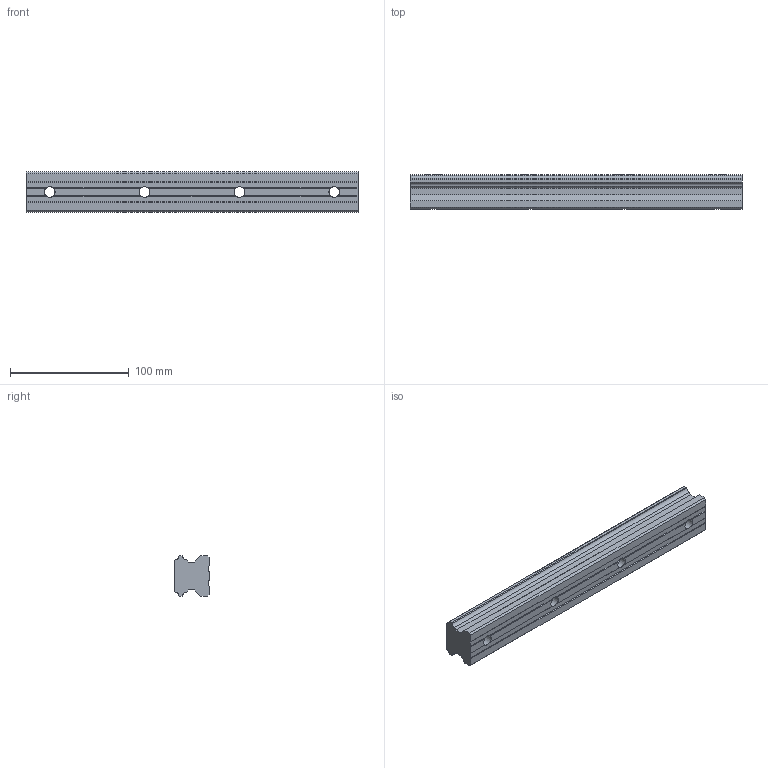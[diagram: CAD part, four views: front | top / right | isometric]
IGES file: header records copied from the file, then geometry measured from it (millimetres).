
Start section: Data from Parasolid IGES Translator 26.0.171, Copyright(c) 2006 Siemens PLM Software. All Rights Reserved.
Global section: file name: HSR35-280L(GK) RAIL(20).igs; native system: By Siemens PLM Incorporated; preprocessor: XPlus GENERIC/IGES 26.0.171; author: Noname; organization: Noname; date: 20240521.044447; units: millimetre
Bounding box: 280 x 29 x 34 mm (x, y, z)
Surface area: 41673.6 mm2 (no closed solid volume)
Topology: 0 solids, 0 shells, 58 faces, 336 edges, 324 vertices
Faces by surface type: extrusion 46, revolution 12
